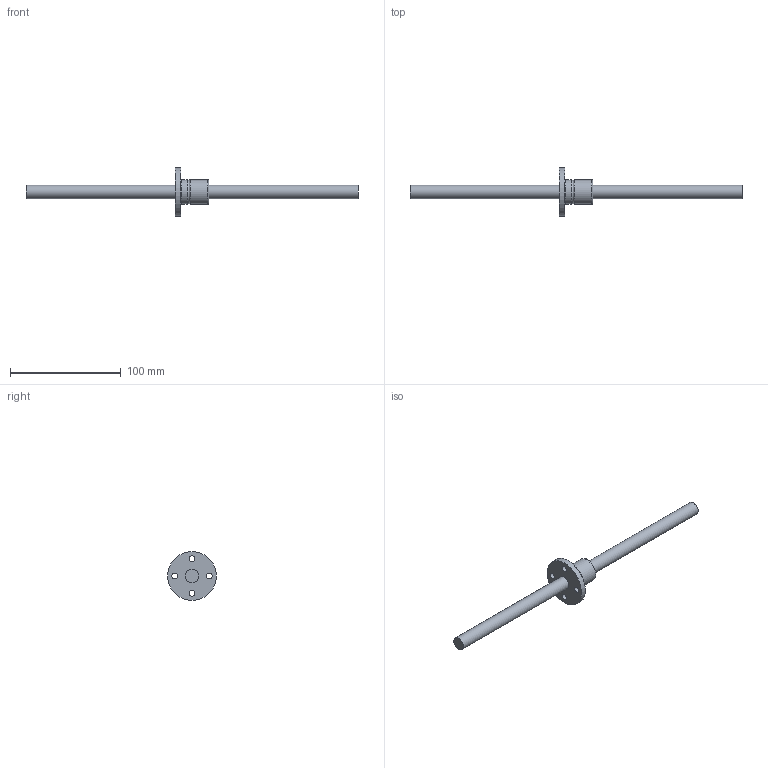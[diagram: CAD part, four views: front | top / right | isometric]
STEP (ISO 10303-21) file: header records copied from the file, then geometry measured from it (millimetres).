
FILE_DESCRIPTION((''),'2;1');
FILE_NAME('D:\製品 (図面)\カタログ用3D\ネジ関連\STEP形式\TMF-OH\TMF12-OH.stp','2010-06-02T15:12:51',('Tsuchiya'),(''),'Autodesk Inventor 10','Autodesk Inventor 10','');
FILE_SCHEMA(('AUTOMOTIVE_DESIGN { 1 0 10303 214 1 1 1 1 }'));
Length unit declared in the file: millimetre
Products named in the file (3): TMF12-OH; TMF12-OH1; TMF12-OH2
Assembly tree (2 placements, depth 2):
  TMF12-OH
    TMF12-OH1
    TMF12-OH2
Bounding box: 300 x 44 x 44 mm (x, y, z)
Volume: 47107.1 mm3; surface area: 18042.3 mm2
Topology: 2 solids, 2 shells, 18 faces, 40 edges, 27 vertices
Faces by surface type: cylinder 10, plane 5, bspline 2, torus 1
Full cylindrical faces by diameter (mm): 1.5 x1, 5.4 x4, 12 x2, 22 x2, 44 x1
Entity records: 708 total; most frequent: CARTESIAN_POINT 285, DIRECTION 82, ORIENTED_EDGE 44, EDGE_LOOP 44, AXIS2_PLACEMENT_3D 41, FACE_BOUND 26, VERTEX_POINT 22, EDGE_CURVE 22
